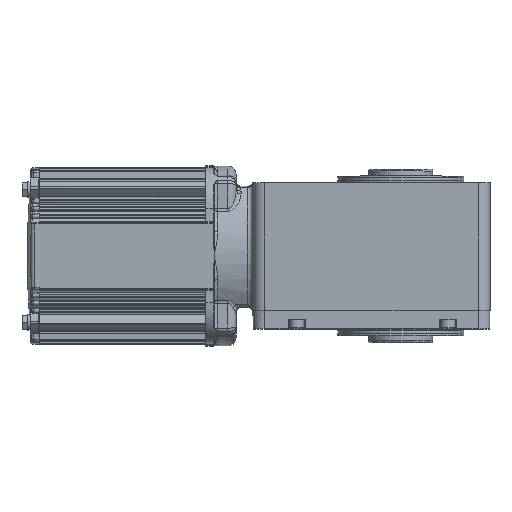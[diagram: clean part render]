
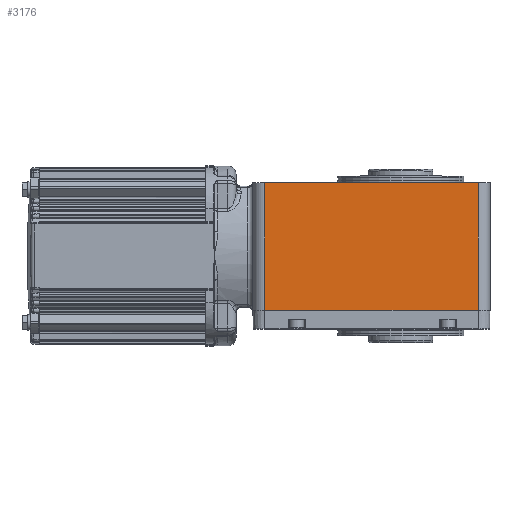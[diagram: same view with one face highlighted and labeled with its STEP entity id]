
A CAD part, top view. The second image highlights one B-rep face of the part: STEP entity #3176.
In plain terms, the highlighted planar face has unit normal (0, 0, 1).
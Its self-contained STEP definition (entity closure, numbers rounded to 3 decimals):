
#3176 = ADVANCED_FACE( '', ( #7156 ), #7157, .T. );
#7156 = FACE_OUTER_BOUND( '', #22239, .T. );
#7157 = PLANE( '', #22240 );
#22239 = EDGE_LOOP( '', ( #39379, #39380, #39381, #39382 ) );
#22240 = AXIS2_PLACEMENT_3D( '', #39383, #39384, #39385 );
#39379 = ORIENTED_EDGE( '', *, *, #48722, .F. );
#39380 = ORIENTED_EDGE( '', *, *, #46422, .T. );
#39381 = ORIENTED_EDGE( '', *, *, #48723, .T. );
#39382 = ORIENTED_EDGE( '', *, *, #46950, .T. );
#39383 = CARTESIAN_POINT( '', ( 104.152, 173.857, 12.458 ) );
#39384 = DIRECTION( '', ( 0., 0., 1. ) );
#39385 = DIRECTION( '', ( 1., 0., 0. ) );
#46422 = EDGE_CURVE( '', #52524, #52522, #52525, .T. );
#46950 = EDGE_CURVE( '', #53379, #53377, #53380, .T. );
#48722 = EDGE_CURVE( '', #52524, #53377, #55906, .T. );
#48723 = EDGE_CURVE( '', #52522, #53379, #55907, .T. );
#52522 = VERTEX_POINT( '', #64443 );
#52524 = VERTEX_POINT( '', #64445 );
#52525 = LINE( '', #64446, #64447 );
#53377 = VERTEX_POINT( '', #66273 );
#53379 = VERTEX_POINT( '', #66275 );
#53380 = LINE( '', #66276, #66277 );
#55906 = LINE( '', #72491, #72492 );
#55907 = LINE( '', #72493, #72494 );
#64443 = CARTESIAN_POINT( '', ( -22.848, 173.357, 12.458 ) );
#64445 = CARTESIAN_POINT( '', ( 104.152, 173.357, 12.458 ) );
#64446 = CARTESIAN_POINT( '', ( 104.152, 173.357, 12.458 ) );
#64447 = VECTOR( '', #78151, 1000. );
#66273 = CARTESIAN_POINT( '', ( 104.152, 97.357, 12.458 ) );
#66275 = CARTESIAN_POINT( '', ( -22.848, 97.357, 12.458 ) );
#66276 = CARTESIAN_POINT( '', ( 104.152, 97.357, 12.458 ) );
#66277 = VECTOR( '', #78950, 1000. );
#72491 = CARTESIAN_POINT( '', ( 104.152, 173.857, 12.458 ) );
#72492 = VECTOR( '', #81408, 1000. );
#72493 = CARTESIAN_POINT( '', ( -22.848, 173.857, 12.458 ) );
#72494 = VECTOR( '', #81409, 1000. );
#78151 = DIRECTION( '', ( -1., 0., 0. ) );
#78950 = DIRECTION( '', ( 1., 0., 0. ) );
#81408 = DIRECTION( '', ( 0., -1., 0. ) );
#81409 = DIRECTION( '', ( 0., -1., 0. ) );
